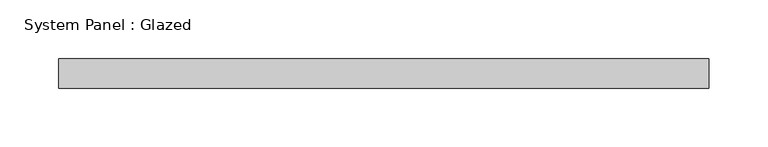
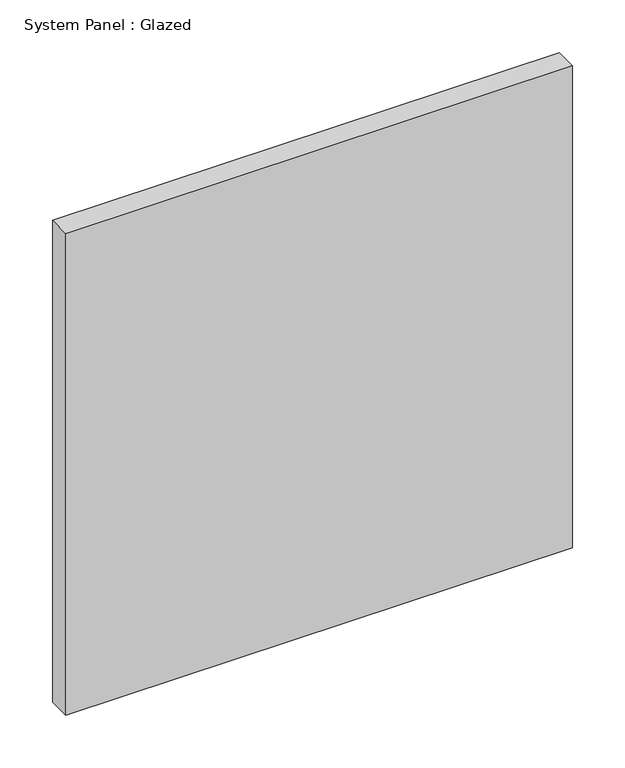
"""IFC4 building model written with IfcOpenShell, lengths in millimetres: plate geometry, System Panel : Glazed."""

from ifc_helpers import new_model, si_unit, origin, origin_with_axes, place, context, project, spatial, polyline, outline, extrude, source, transform, mapped, element, save


def system_panel_glazed_92f702fb(model_context):
    return source(origin(), model_context, "Body", "SweptSolid", [
        extrude(outline(polyline([(278.13, -12.7), (-278.13, -12.7), (-278.13, 12.7), (278.13, 12.7), (278.13, -12.7)])), origin_with_axes(), (0.0, 0.0, 1.0), 558.8),
    ])


if __name__ == "__main__":
    model = new_model("IFC4")
    model_context = context("Model", 3, world=origin())
    ifc_project = project(units=[si_unit("LENGTHUNIT", "METRE", prefix="MILLI")], contexts=[model_context])
    site = spatial("IfcSite", under=ifc_project)
    building = spatial("IfcBuilding", under=site)
    placement = place(None, origin())
    system_panel_glazed_shape = system_panel_glazed_92f702fb(model_context)
    element("IfcPlate", 1, ObjectType="System Panel : Glazed", at=placement, inside=building, context=model_context, shape_type="MappedRepresentation", body=[
        mapped(system_panel_glazed_shape, transform((0.0, 0.0, 0.0), x_axis=(1.0, 0.0, 0.0), y_axis=(0.0, 1.0, 0.0), z_axis=(0.0, 0.0, 1.0))),
    ])
    save(model, "model.ifc")
